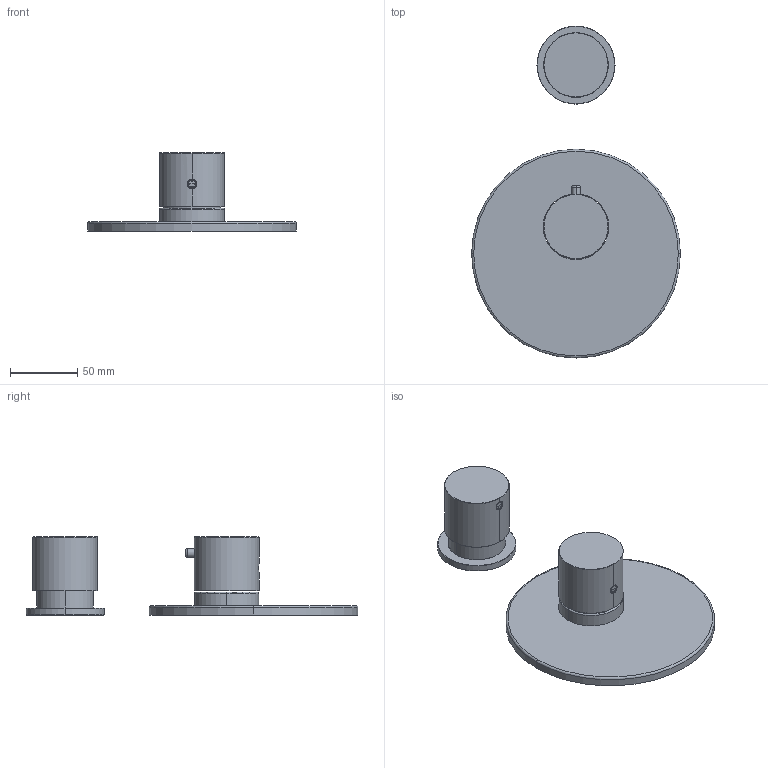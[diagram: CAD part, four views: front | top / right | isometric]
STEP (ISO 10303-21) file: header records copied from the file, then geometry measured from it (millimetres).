
FILE_DESCRIPTION((''),'2;1');
FILE_NAME('F3083X1INOX_FILE_3D','2019-07-25T',('ivanv'),(''),'CREO PARAMETRIC BY PTC INC, 2016260','CREO PARAMETRIC BY PTC INC, 2016260','');
FILE_SCHEMA(('CONFIG_CONTROL_DESIGN'));
Length unit declared in the file: millimetre
Products named in the file (1): F3083X1INOX_FILE_3D
Bounding box: 155 x 246.5 x 58 mm (x, y, z)
Volume: 110588.9 mm3; surface area: 92492.6 mm2
Topology: 6 solids, 7 shells, 242 faces, 607 edges, 370 vertices
Faces by surface type: cylinder 94, plane 66, cone 60, torus 18, sphere 4
Entity records: 8352 total; most frequent: CARTESIAN_POINT 2434, DIRECTION 1295, ORIENTED_EDGE 1198, EDGE_CURVE 599, AXIS2_PLACEMENT_3D 530, VERTEX_POINT 370, CIRCLE 288, EDGE_LOOP 275
